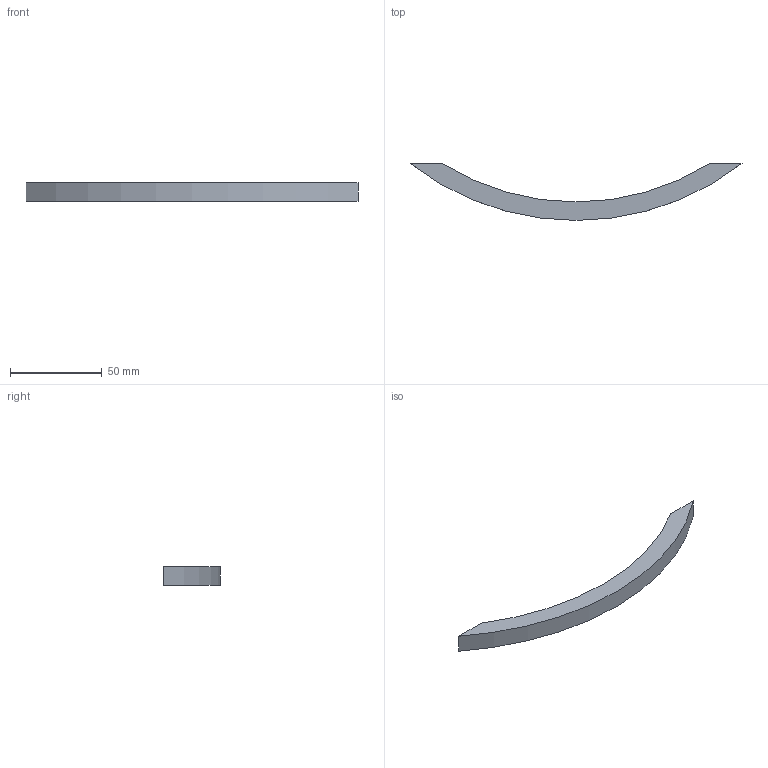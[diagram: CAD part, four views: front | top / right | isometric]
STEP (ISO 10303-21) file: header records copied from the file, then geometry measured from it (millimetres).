
FILE_DESCRIPTION( ( 'STEP AP214' ), '1' );
FILE_NAME( 'C:/Users/swati/Desktop/guarani/9208047/9208047.stp', ' ', ( ' ' ), ( ' ' ), 'PSStep 15.0.47', 'PARTsolutions', ' ' );
FILE_SCHEMA( ( 'AUTOMOTIVE_DESIGN { 1 0 10303 214 1 1 1 1 }' ) );
Length unit declared in the file: millimetre
Products named in the file (2): 95 ; _
Assembly tree (1 placements, depth 2):
  95 
    _
Bounding box: 181 x 31.03 x 10 mm (x, y, z)
Volume: 17445.1 mm3; surface area: 7477.4 mm2
Topology: 1 solids, 1 shells, 10 faces, 18 edges, 12 vertices
Faces by surface type: plane 6, cylinder 4
Full cylindrical faces by diameter (mm): 4 x2
Entity records: 358 total; most frequent: DIRECTION 48, CARTESIAN_POINT 40, ORIENTED_EDGE 32, AXIS2_PLACEMENT_3D 20, EDGE_CURVE 16, EDGE_LOOP 14, FACE_OUTER_BOUND 12, VERTEX_POINT 12
